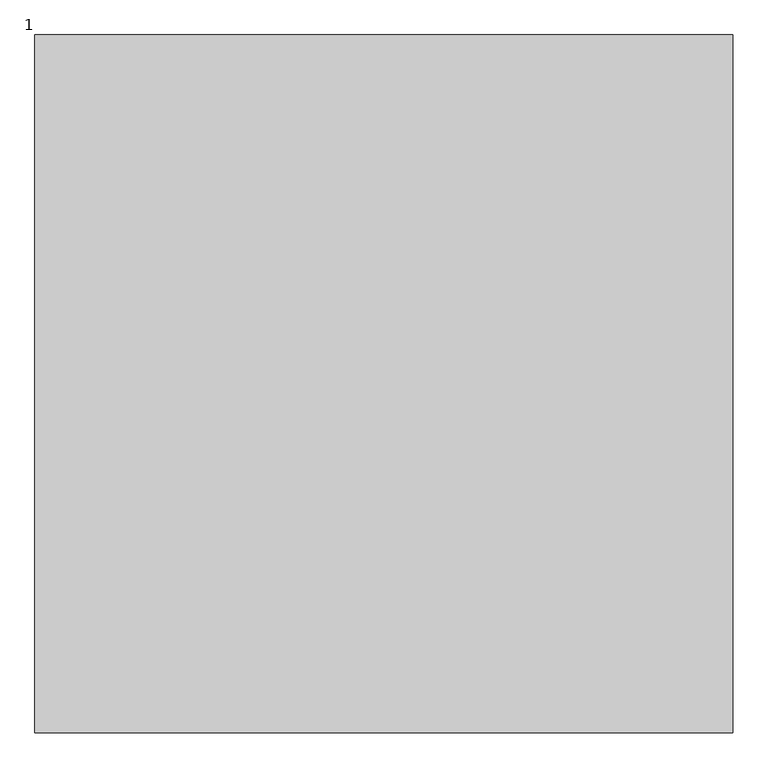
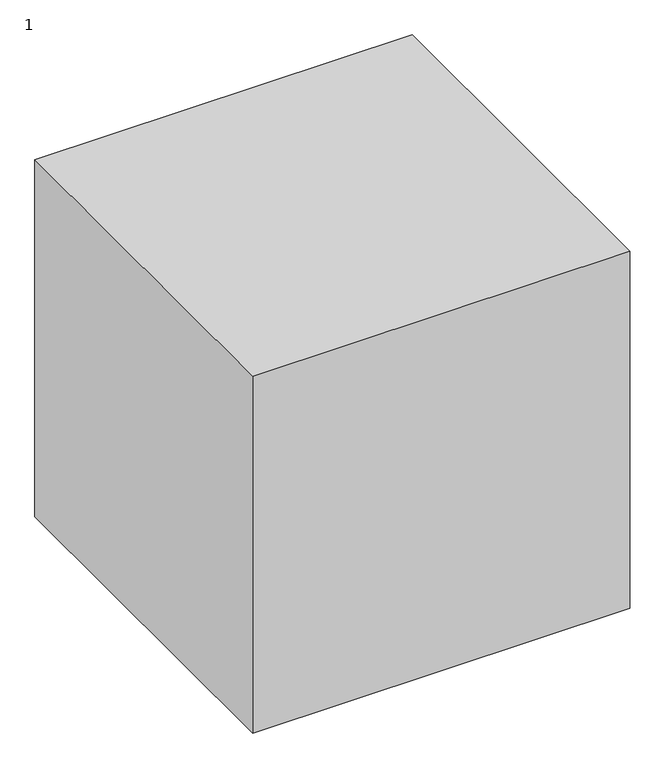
"""IFC4 building model written with IfcOpenShell, lengths in millimetres: proxy geometry, 122311111 : 1."""

from ifc_helpers import new_model, si_unit, origin, origin_with_axes, place, context, project, spatial, polyline, outline, extrude, source, transform, mapped, element, save


def proxy_1_ef48607b(model_context):
    return source(origin(), model_context, "Body", "SweptSolid", [
        extrude(outline(polyline([(-20307.9756708, -12664.7705528), (-20307.9756708, -13664.7705528), (-21307.9756708, -13664.7705528), (-21307.9756708, -12664.7705528), (-20307.9756708, -12664.7705528)])), origin_with_axes(), (0.0, 0.0, 1.0), 1000.0),
    ])


if __name__ == "__main__":
    model = new_model("IFC4")
    model_context = context("Model", 3, world=origin())
    ifc_project = project(units=[si_unit("LENGTHUNIT", "METRE", prefix="MILLI")], contexts=[model_context])
    site = spatial("IfcSite", under=ifc_project)
    building = spatial("IfcBuilding", under=site)
    placement = place(None, origin())
    proxy_1_shape = proxy_1_ef48607b(model_context)
    element("IfcBuildingElementProxy", 1, Name="122311111 : 1", ObjectType="122311111 : 1", at=placement, inside=building, context=model_context, shape_type="MappedRepresentation", body=[
        mapped(proxy_1_shape, transform((0.0, 0.0, 0.0), x_axis=(1.0, 0.0, 0.0), y_axis=(0.0, 1.0, 0.0), z_axis=(0.0, 0.0, 1.0))),
    ])
    save(model, "model.ifc")
